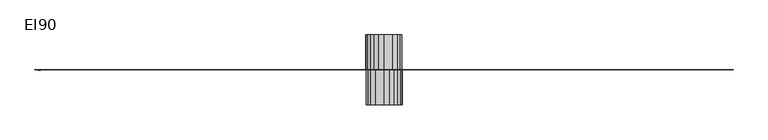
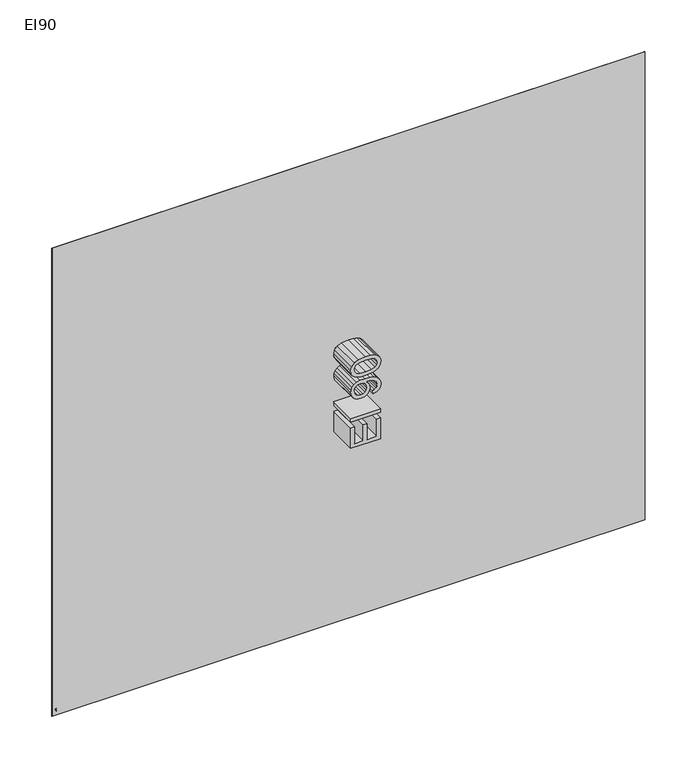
"""IFC4 building model written with IfcOpenShell, lengths in millimetres: proxy geometry, Fire_FireCompartmentationEI : EI90."""

from ifc_helpers import new_model, si_unit, point, frame, frame_2d, origin, origin_with_axes, place, context, project, spatial, polyline, circle_curve, trimmed, segment, composite_curve, outline, extrude, source, transform, mapped, element, save


def ei90_cadc9cc0(model_context):
    return source(origin(), model_context, "Body", "SweptSolid", [
        extrude(outline(polyline([(3000.0, -0.5), (0.0, -0.5), (0.0, 0.5), (3000.0, 0.5), (3000.0, -0.5)])), origin_with_axes(), (0.0, 0.0, 1.0), 2500.0),
        extrude(outline(composite_curve([segment(trimmed(circle_curve(frame_2d((28.9488523, 20.9372462)), 4.3000253), [point((27.7936078, 25.0791815))], [point((29.724042, 25.1668205))], False, "CARTESIAN"), True, "CONTINUOUS"), segment(trimmed(circle_curve(frame_2d((29.6833004, 19.2917407)), 5.875221), [point((29.724042, 25.1668205))], [point((32.6283278, 24.3755421))], False, "CARTESIAN"), True, "CONTINUOUS"), segment(trimmed(circle_curve(frame_2d((32.8576867, 20.8662932)), 3.5167361), [point((32.6283278, 24.3755421))], [point((30.6249304, 23.5833197))], True, "CARTESIAN"), True, "CONTINUOUS"), segment(trimmed(circle_curve(frame_2d((10.876956, 53.8348059)), 36.1266511), [point((30.6249304, 23.5833197))], [point((25.8949704, 20.9776277))], False, "CARTESIAN"), True, "CONTINUOUS"), segment(trimmed(circle_curve(frame_2d((21.9041848, 33.757735)), 13.3887083), [point((25.8949704, 20.9776277))], [point((22.6832699, 20.3917132))], False, "CARTESIAN"), True, "CONTINUOUS"), segment(trimmed(circle_curve(frame_2d((20.9508608, 39.8789486)), 19.5640891), [point((22.6832699, 20.3917132))], [point((20.0109811, 20.3374489))], False, "CARTESIAN"), True, "CONTINUOUS"), segment(trimmed(circle_curve(frame_2d((18.2722891, 30.1747881)), 9.9898094), [point((20.0109811, 20.3374489))], [point((25.2489423, 23.0247809))], True, "CARTESIAN"), True, "CONTINUOUS"), segment(trimmed(circle_curve(frame_2d((30.9774835, 18.5323372)), 7.2799887), [point((25.2489423, 23.0247809))], [point((27.7936078, 25.0791815))], False, "CARTESIAN"), True, "CONTINUOUS")], self_intersect=False)), frame((0.0, -0.6, 0.0), z_axis=(0.0, 1.0, 0.0), x_axis=(0.0, 0.0, 1.0)), (0.0, 0.0, 1.0), 1.2),
        extrude(outline(composite_curve([segment(trimmed(circle_curve(frame_2d((34.8553456, 17.4656787)), 4.3823741), [point((35.4675373, 21.8050824))], [point((32.7666638, 21.3182897))], True, "CARTESIAN"), True, "CONTINUOUS"), segment(trimmed(circle_curve(frame_2d((31.0348418, 25.2412811)), 4.2882478), [point((32.7666638, 21.3182897))], [point((31.0556823, 20.9530839))], False, "CARTESIAN"), True, "CONTINUOUS"), segment(trimmed(circle_curve(frame_2d((30.8661112, 26.3534755)), 5.4037178), [point((31.0556823, 20.9530839))], [point((28.4262544, 21.5319337))], False, "CARTESIAN"), True, "CONTINUOUS"), segment(trimmed(circle_curve(frame_2d((28.9867579, 26.8058524)), 5.3036197), [point((28.4262544, 21.5319337))], [point((30.6443727, 21.7679267))], True, "CARTESIAN"), True, "CONTINUOUS"), segment(trimmed(circle_curve(frame_2d((33.7648144, 18.2895153)), 4.6729544), [point((30.6443727, 21.7679267))], [point((32.5632515, 22.8053485))], False, "CARTESIAN"), True, "CONTINUOUS"), segment(trimmed(circle_curve(frame_2d((33.1708117, 19.8529583)), 3.0142556), [point((32.5632515, 22.8053485))], [point((35.4675373, 21.8050824))], False, "CARTESIAN"), True, "CONTINUOUS")], self_intersect=False)), frame((0.0, -0.6, 0.0), z_axis=(0.0, 1.0, 0.0), x_axis=(0.0, 0.0, 1.0)), (0.0, 0.0, 1.0), 1.2),
        extrude(outline(composite_curve([segment(trimmed(circle_curve(frame_2d((26.35828, 17.8501973)), 2.1465167), [point((27.6612009, 19.5560492))], [point((26.6135063, 19.9814864))], True, "CARTESIAN"), True, "CONTINUOUS"), segment(trimmed(circle_curve(frame_2d((25.771558, 13.6747037)), 6.3627341), [point((26.6135063, 19.9814864))], [point((25.1811141, 20.0099828))], True, "CARTESIAN"), True, "CONTINUOUS"), segment(trimmed(circle_curve(frame_2d((27.6708438, 15.0485986)), 5.5510437), [point((25.1811141, 20.0099828))], [point((27.8117089, 20.5978547))], False, "CARTESIAN"), True, "CONTINUOUS"), segment(trimmed(circle_curve(frame_2d((27.9681735, 17.2267436)), 3.3747401), [point((27.8117089, 20.5978547))], [point((29.507487, 20.2299728))], False, "CARTESIAN"), True, "CONTINUOUS"), segment(trimmed(circle_curve(frame_2d((31.5381431, 23.6896238)), 4.0115769), [point((29.507487, 20.2299728))], [point((32.2223971, 19.7368341))], True, "CARTESIAN"), True, "CONTINUOUS"), segment(trimmed(circle_curve(frame_2d((29.9256715, 21.6889582)), 3.0142556), [point((32.2223971, 19.7368341))], [point((29.3181113, 18.736568))], False, "CARTESIAN"), True, "CONTINUOUS"), segment(trimmed(circle_curve(frame_2d((30.5170043, 23.2454076)), 4.6655095), [point((29.3181113, 18.736568))], [point((27.6612009, 19.5560492))], False, "CARTESIAN"), True, "CONTINUOUS")], self_intersect=False)), frame((0.0, -0.6, 0.0), z_axis=(0.0, 1.0, 0.0), x_axis=(0.0, 0.0, 1.0)), (0.0, 0.0, 1.0), 1.2),
        extrude(outline(composite_curve([segment(trimmed(circle_curve(frame_2d((32.8467056, 19.4711557)), 3.5167361), [point((30.6139493, 16.7541292))], [point((32.6173467, 15.9619068))], True, "CARTESIAN"), True, "CONTINUOUS"), segment(trimmed(circle_curve(frame_2d((29.6723193, 21.0457082)), 5.875221), [point((32.6173467, 15.9619068))], [point((29.7130609, 15.1706284))], False, "CARTESIAN"), True, "CONTINUOUS"), segment(trimmed(circle_curve(frame_2d((28.9378712, 19.4002026)), 4.3000253), [point((29.7130609, 15.1706284))], [point((27.7826267, 15.2582674))], False, "CARTESIAN"), True, "CONTINUOUS"), segment(trimmed(circle_curve(frame_2d((30.9665024, 21.8051117)), 7.2799887), [point((27.7826267, 15.2582674))], [point((25.2379612, 17.312668))], False, "CARTESIAN"), True, "CONTINUOUS"), segment(trimmed(circle_curve(frame_2d((18.261308, 10.1626608)), 9.9898094), [point((25.2379612, 17.312668))], [point((20.0, 20.0))], True, "CARTESIAN"), True, "CONTINUOUS"), segment(trimmed(circle_curve(frame_2d((20.9398797, 0.4585003)), 19.5640891), [point((20.0, 20.0))], [point((22.6722888, 19.9457357))], False, "CARTESIAN"), True, "CONTINUOUS"), segment(trimmed(circle_curve(frame_2d((21.8932037, 6.5797139)), 13.3887083), [point((22.6722888, 19.9457357))], [point((25.8839893, 19.3598212))], False, "CARTESIAN"), True, "CONTINUOUS"), segment(trimmed(circle_curve(frame_2d((10.8659749, -13.497357)), 36.1266511), [point((25.8839893, 19.3598212))], [point((30.6139493, 16.7541292))], False, "CARTESIAN"), True, "CONTINUOUS")], self_intersect=False)), frame((0.0, -0.6, 0.0), z_axis=(0.0, 1.0, 0.0), x_axis=(0.0, 0.0, 1.0)), (0.0, 0.0, 1.0), 1.2),
        extrude(outline(polyline([(1022.7960798, 1425.0), (1022.7960798, 1575.6844652), (1131.1005392, 1575.6844652), (1131.1005392, 1556.8489071), (1041.6316379, 1556.8489071), (1041.6316379, 1512.1144565), (1126.3916496, 1512.1144565), (1126.3916496, 1493.2788983), (1041.6316379, 1493.2788983), (1041.6316379, 1443.8355582), (1133.4549839, 1443.8355582), (1133.4549839, 1425.0), (1022.7960798, 1425.0)])), frame((0.0, 0.0, 0.0), z_axis=(0.0, 1.0, 0.0), x_axis=(0.0, 0.0, 1.0)), (0.0, 0.0, 1.0), 150.0),
        extrude(outline(polyline([(1425.0, 150.0), (1575.6844652, 150.0), (1575.6844652, 0.0), (1425.0, 0.0), (1425.0, 150.0)])), frame((0.0, 0.0, 1164.0627659), z_axis=(0.0, 0.0, 1.0), x_axis=(1.0, 0.0, 0.0)), (0.0, 0.0, 1.0), 18.8355582),
        extrude(outline(polyline([(1274.7216701, 1462.6711163), (1293.5572282, 1465.0255611), (1296.7761957, 1454.3339906), (1302.0185141, 1447.0545256), (1309.1554248, 1442.8744664), (1318.0581691, 1441.4811134), (1333.3068778, 1445.0679628), (1343.6443619, 1454.6512888), (1349.8063853, 1471.0220376), (1352.5287121, 1492.8742281), (1352.4183475, 1496.5530481), (1337.3535798, 1482.2792266), (1316.6970057, 1476.7977849), (1299.5215151, 1480.1455111), (1285.224701, 1490.1886895), (1275.5815942, 1505.7041127), (1272.3672253, 1525.4685729), (1275.7379441, 1545.8860236), (1285.8501004, 1561.8888904), (1301.0390283, 1572.2355715), (1319.6400617, 1575.6844652), (1333.6885554, 1573.7162966), (1346.4770532, 1567.8117905), (1357.1732222, 1558.2652528), (1364.9447294, 1545.3709888), (1369.6766116, 1527.5471062), (1371.2539056, 1503.2117122), (1369.6812101, 1477.4093887), (1364.9631235, 1457.4655861), (1357.1410326, 1442.4789933), (1346.256324, 1431.5482995), (1332.7780474, 1424.8712413), (1317.1752523, 1422.6455552), (1301.071218, 1425.271313), (1288.2229393, 1433.1485862), (1279.2374216, 1445.7807342), (1274.7216701, 1462.6711163)]), holes=[polyline([(1352.4183475, 1525.9100313), (1350.3857994, 1538.6755365), (1344.2881554, 1548.4979858), (1334.824391, 1554.7611767), (1322.6934822, 1556.8489071), (1310.111918, 1554.6002284), (1300.0319513, 1547.8541923), (1293.4100754, 1537.5305038), (1291.2027835, 1524.5488679), (1293.2905138, 1512.9100013), (1299.5537048, 1503.6715647), (1309.3853511, 1497.6428985), (1322.1784475, 1495.6333431), (1334.2127872, 1497.6428985), (1343.9018793, 1503.6715647), (1350.2892304, 1513.2502921), (1352.4183475, 1525.9100313)])]), frame((0.0, 0.0, 0.0), z_axis=(0.0, 1.0, 0.0), x_axis=(0.0, 0.0, 1.0)), (0.0, 0.0, 1.0), 150.0),
        extrude(outline(polyline([(1387.735019, 1499.128222), (1389.119175, 1523.2474853), (1393.271643, 1542.4831152), (1400.1510363, 1557.1294171), (1409.7159682, 1567.4806967), (1422.0354165, 1573.6335231), (1437.1783591, 1575.6844652), (1459.1777025, 1570.8284229), (1474.3712289, 1556.830513), (1483.2003967, 1534.5368641), (1486.6216993, 1499.128222), (1485.2513389, 1475.1469145), (1481.1402576, 1455.9572699), (1474.302251, 1441.2971724), (1464.7511147, 1430.904506), (1452.4040752, 1424.7102929), (1437.1783591, 1422.6455552), (1417.607037, 1426.2324047), (1402.7446044, 1436.992953), (1391.4874153, 1462.4779783), (1387.735019, 1499.128222)]), holes=[polyline([(1406.5705771, 1499.1650102), (1408.7778691, 1469.536714), (1415.399745, 1452.3888145), (1425.2589825, 1444.2080387), (1437.1783591, 1441.4811134), (1449.0977358, 1444.2172357), (1458.9569733, 1452.4256027), (1465.5788492, 1469.5826993), (1467.7861411, 1499.1650102), (1465.6524256, 1528.1265203), (1459.2512789, 1545.407777), (1449.4104355, 1553.9886246), (1436.9576299, 1556.8489071), (1425.167012, 1554.3289154), (1415.6940506, 1546.7689404), (1408.8514455, 1528.4116288), (1406.5705771, 1499.1650102)])]), frame((0.0, 0.0, 0.0), z_axis=(0.0, 1.0, 0.0), x_axis=(0.0, 0.0, 1.0)), (0.0, 0.0, 1.0), 150.0),
        extrude(outline(polyline([(1022.7960798, 1575.0), (1133.4549839, 1575.0), (1133.4549839, 1556.1644418), (1041.6316379, 1556.1644418), (1041.6316379, 1506.7211017), (1126.3916496, 1506.7211017), (1126.3916496, 1487.8855435), (1041.6316379, 1487.8855435), (1041.6316379, 1443.1510929), (1131.1005392, 1443.1510929), (1131.1005392, 1424.3155348), (1022.7960798, 1424.3155348), (1022.7960798, 1575.0)])), frame((0.0, -150.0, 0.0), z_axis=(0.0, 1.0, 0.0), x_axis=(0.0, 0.0, 1.0)), (0.0, 0.0, 1.0), 150.0),
        extrude(outline(polyline([(1575.0, -150.0), (1424.3155348, -150.0), (1424.3155348, 0.0), (1575.0, 0.0), (1575.0, -150.0)])), frame((0.0, 0.0, 1164.0627659), z_axis=(0.0, 0.0, 1.0), x_axis=(1.0, 0.0, 0.0)), (0.0, 0.0, 1.0), 18.8355582),
        extrude(outline(polyline([(1274.7216701, 1537.3288837), (1279.2374216, 1554.2192658), (1288.2229393, 1566.8514138), (1301.071218, 1574.728687), (1317.1752523, 1577.3544448), (1332.7780474, 1575.1287587), (1346.256324, 1568.4517005), (1357.1410326, 1557.5210067), (1364.9631235, 1542.5344139), (1369.6812101, 1522.5906113), (1371.2539056, 1496.7882878), (1369.6766116, 1472.4528938), (1364.9447294, 1454.6290112), (1357.1732222, 1441.7347472), (1346.4770532, 1432.1882095), (1333.6885554, 1426.2837034), (1319.6400617, 1424.3155348), (1301.0390283, 1427.7644285), (1285.8501004, 1438.1111096), (1275.7379441, 1454.1139764), (1272.3672253, 1474.5314271), (1275.5815942, 1494.2958873), (1285.224701, 1509.8113105), (1299.5215151, 1519.8544889), (1316.6970057, 1523.2022151), (1337.3535798, 1517.7207734), (1352.4183475, 1503.4469519), (1352.5287121, 1507.1257719), (1349.8063853, 1528.9779624), (1343.6443619, 1545.3487112), (1333.3068778, 1554.9320372), (1318.0581691, 1558.5188866), (1309.1554248, 1557.1255336), (1302.0185141, 1552.9454744), (1296.7761957, 1545.6660094), (1293.5572282, 1534.9744389), (1274.7216701, 1537.3288837)]), holes=[polyline([(1352.4183475, 1474.0899687), (1350.2892304, 1486.7497079), (1343.9018793, 1496.3284353), (1334.2127872, 1502.3571015), (1322.1784475, 1504.3666569), (1309.3853511, 1502.3571015), (1299.5537048, 1496.3284353), (1293.2905138, 1487.0899987), (1291.2027835, 1475.4511321), (1293.4100754, 1462.4694962), (1300.0319513, 1452.1458077), (1310.111918, 1445.3997716), (1322.6934822, 1443.1510929), (1334.824391, 1445.2388233), (1344.2881554, 1451.5020142), (1350.3857994, 1461.3244635), (1352.4183475, 1474.0899687)])]), frame((0.0, -150.0, 0.0), z_axis=(0.0, 1.0, 0.0), x_axis=(0.0, 0.0, 1.0)), (0.0, 0.0, 1.0), 150.0),
        extrude(outline(polyline([(1387.735019, 1500.871778), (1391.4874153, 1537.5220217), (1402.7446044, 1563.007047), (1417.607037, 1573.7675953), (1437.1783591, 1577.3544448), (1452.4040752, 1575.2897071), (1464.7511147, 1569.095494), (1474.302251, 1558.7028276), (1481.1402576, 1544.0427301), (1485.2513389, 1524.8530855), (1486.6216993, 1500.871778), (1483.2003967, 1465.4631359), (1474.3712289, 1443.169487), (1459.1777025, 1429.1715771), (1437.1783591, 1424.3155348), (1422.0354165, 1426.3664769), (1409.7159682, 1432.5193033), (1400.1510363, 1442.8705829), (1393.271643, 1457.5168848), (1389.119175, 1476.7525147), (1387.735019, 1500.871778)]), holes=[polyline([(1406.5705771, 1500.8349898), (1408.8514455, 1471.5883712), (1415.6940506, 1453.2310596), (1425.167012, 1445.6710846), (1436.9576299, 1443.1510929), (1449.4104355, 1446.0113754), (1459.2512789, 1454.592223), (1465.6524256, 1471.8734797), (1467.7861411, 1500.8349898), (1465.5788492, 1530.4173007), (1458.9569733, 1547.5743973), (1449.0977358, 1555.7827643), (1437.1783591, 1558.5188866), (1425.2589825, 1555.7919613), (1415.399745, 1547.6111855), (1408.7778691, 1530.463286), (1406.5705771, 1500.8349898)])]), frame((0.0, -150.0, 0.0), z_axis=(0.0, 1.0, 0.0), x_axis=(0.0, 0.0, 1.0)), (0.0, 0.0, 1.0), 150.0),
    ])


if __name__ == "__main__":
    model = new_model("IFC4")
    model_context = context("Model", 3, world=origin())
    ifc_project = project(units=[si_unit("LENGTHUNIT", "METRE", prefix="MILLI")], contexts=[model_context])
    site = spatial("IfcSite", under=ifc_project)
    building = spatial("IfcBuilding", under=site)
    placement = place(None, origin())
    ei90_shape = ei90_cadc9cc0(model_context)
    element("IfcBuildingElementProxy", 1, Name="Fire_FireCompartmentationEI : EI90", ObjectType="Fire_FireCompartmentationEI : EI90", at=placement, inside=building, context=model_context, shape_type="MappedRepresentation", body=[
        mapped(ei90_shape, transform((0.0, 0.0, 0.0), x_axis=(1.0, 0.0, 0.0), y_axis=(0.0, 1.0, 0.0), z_axis=(0.0, 0.0, 1.0))),
    ])
    save(model, "model.ifc")
